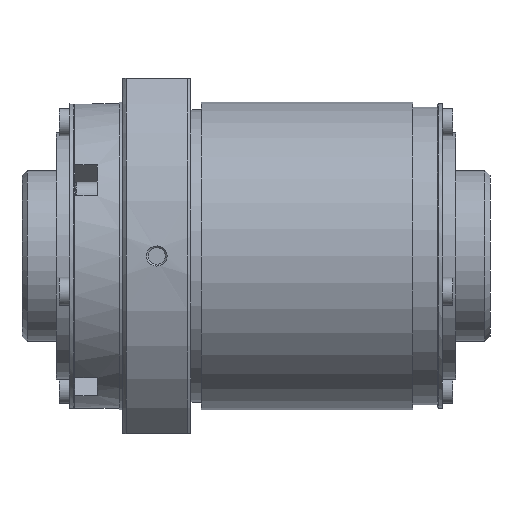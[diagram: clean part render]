
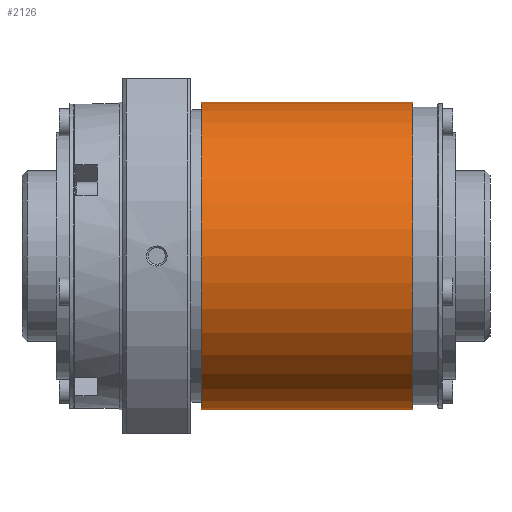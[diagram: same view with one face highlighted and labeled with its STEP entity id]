
A CAD part, front view. The second image highlights one B-rep face of the part: STEP entity #2126.
In plain terms, the highlighted cylindrical face has radius 45 mm (diameter 90 mm), a full revolution.
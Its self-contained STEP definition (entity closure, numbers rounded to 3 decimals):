
#317=CYLINDRICAL_SURFACE('',#2339,45.);
#458=ORIENTED_EDGE('',*,*,#1017,.T.);
#459=ORIENTED_EDGE('',*,*,#1016,.F.);
#1016=EDGE_CURVE('',#1295,#1295,#1453,.T.);
#1017=EDGE_CURVE('',#1296,#1296,#1454,.T.);
#1295=VERTEX_POINT('',#3567);
#1296=VERTEX_POINT('',#3570);
#1453=CIRCLE('',#2338,45.);
#1454=CIRCLE('',#2340,45.);
#1587=EDGE_LOOP('',(#458));
#1588=EDGE_LOOP('',(#459));
#1813=FACE_BOUND('',#1587,.T.);
#1814=FACE_BOUND('',#1588,.T.);
#2126=ADVANCED_FACE('',(#1813,#1814),#317,.T.);
#2338=AXIS2_PLACEMENT_3D('',#3566,#2701,#2702);
#2339=AXIS2_PLACEMENT_3D('',#3568,#2703,#2704);
#2340=AXIS2_PLACEMENT_3D('',#3569,#2705,#2706);
#2701=DIRECTION('',(1.,0.,0.));
#2702=DIRECTION('',(0.,0.,-1.));
#2703=DIRECTION('',(1.,0.,0.));
#2704=DIRECTION('',(0.,0.,-1.));
#2705=DIRECTION('',(1.,0.,0.));
#2706=DIRECTION('',(0.,0.,-1.));
#3566=CARTESIAN_POINT('',(98.8,0.,0.));
#3567=CARTESIAN_POINT('',(98.8,0.,-45.));
#3568=CARTESIAN_POINT('',(106.,0.,0.));
#3569=CARTESIAN_POINT('',(37.,0.,0.));
#3570=CARTESIAN_POINT('',(37.,0.,-45.));
